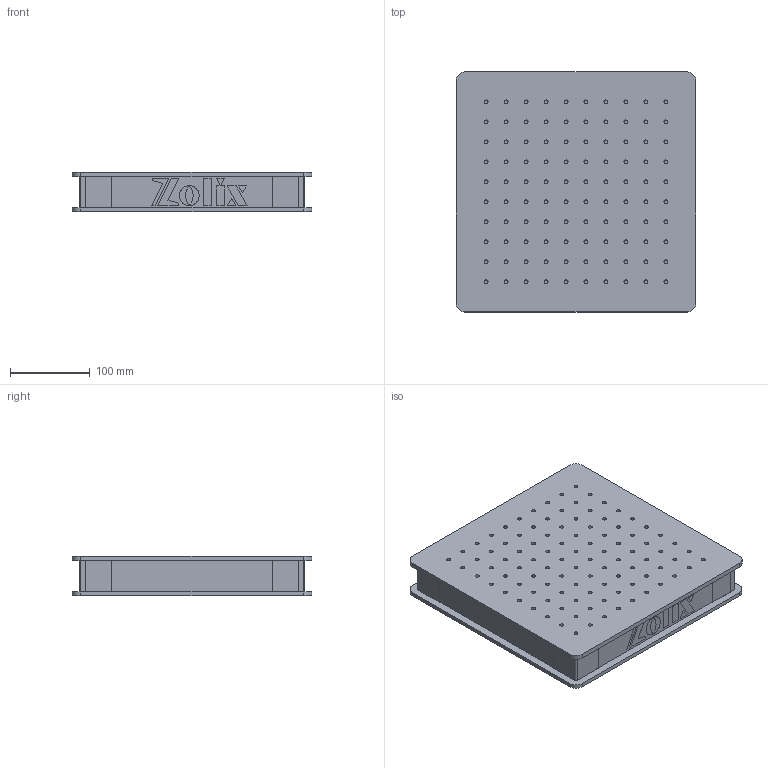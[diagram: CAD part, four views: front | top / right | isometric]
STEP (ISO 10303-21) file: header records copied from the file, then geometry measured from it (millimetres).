
FILE_DESCRIPTION (( 'STEP AP203' ), '1' );
FILE_NAME ('OTBB33-50 怢醱.STEP', '2019-05-09T08:14:44', ( 'User' ), ( 'User' ), 'SwSTEP 2.0', 'SolidWorks 2016', '' );
FILE_SCHEMA (( 'CONFIG_CONTROL_DESIGN' ));
Length unit declared in the file: millimetre
Products named in the file (1): OTBB33-50 怢醱
Bounding box: 300 x 300 x 50 mm (x, y, z)
Surface area: 436136.5 mm2 (no closed solid volume)
Topology: 0 solids, 30 shells, 294 faces, 1096 edges, 834 vertices
Faces by surface type: cylinder 212, plane 82
Entity records: 12230 total; most frequent: CARTESIAN_POINT 2225, DIRECTION 2110, ORIENTED_EDGE 1792, EDGE_CURVE 1096, VERTEX_POINT 834, AXIS2_PLACEMENT_3D 719, LINE 672, VECTOR 672
